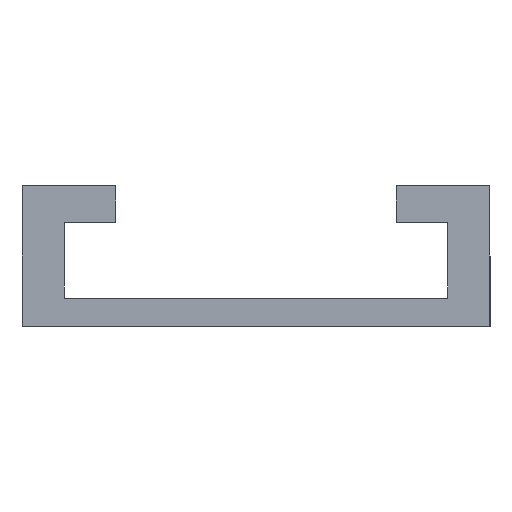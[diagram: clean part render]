
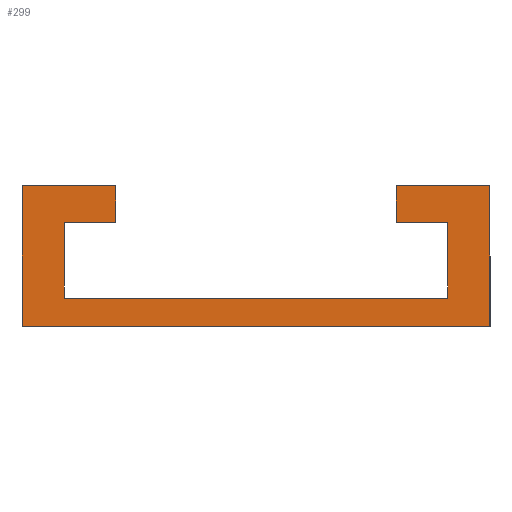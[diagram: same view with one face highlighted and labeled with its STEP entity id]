
A CAD part, left-side view. The second image highlights one B-rep face of the part: STEP entity #299.
In plain terms, the highlighted planar face has unit normal (-1, 0, 0).
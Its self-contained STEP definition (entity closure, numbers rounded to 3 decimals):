
#6 = CARTESIAN_POINT ( 'NONE',  ( 0., 15., 11.1 ) ) ;
#7 = CARTESIAN_POINT ( 'NONE',  ( 0., -20.5, 3. ) ) ;
#9 = VERTEX_POINT ( 'NONE', #55 ) ;
#12 = VERTEX_POINT ( 'NONE', #305 ) ;
#19 = VERTEX_POINT ( 'NONE', #200 ) ;
#21 = LINE ( 'NONE', #27, #105 ) ;
#26 = VECTOR ( 'NONE', #427, 1000. ) ;
#27 = CARTESIAN_POINT ( 'NONE',  ( 0., -25., 0. ) ) ;
#30 = VERTEX_POINT ( 'NONE', #352 ) ;
#31 = CARTESIAN_POINT ( 'NONE',  ( 0., -20.5, 11.1 ) ) ;
#38 = CARTESIAN_POINT ( 'NONE',  ( 0., -25., 15. ) ) ;
#39 = DIRECTION ( 'NONE',  ( 0., 0., -1. ) ) ;
#48 = VERTEX_POINT ( 'NONE', #53 ) ;
#49 = ORIENTED_EDGE ( 'NONE', *, *, #89, .F. ) ;
#53 = CARTESIAN_POINT ( 'NONE',  ( 0., 25., 0. ) ) ;
#55 = CARTESIAN_POINT ( 'NONE',  ( 0., 15., 15. ) ) ;
#61 = LINE ( 'NONE', #135, #266 ) ;
#65 = EDGE_CURVE ( 'NONE', #389, #98, #385, .T. ) ;
#75 = EDGE_CURVE ( 'NONE', #361, #19, #342, .T. ) ;
#80 = VECTOR ( 'NONE', #242, 1000. ) ;
#84 = AXIS2_PLACEMENT_3D ( 'NONE', #140, #108, #39 ) ;
#85 = EDGE_LOOP ( 'NONE', ( #287, #237, #285, #198, #423, #126, #378, #49, #373, #173, #130, #278 ) ) ;
#89 = EDGE_CURVE ( 'NONE', #405, #389, #176, .T. ) ;
#98 = VERTEX_POINT ( 'NONE', #31 ) ;
#105 = VECTOR ( 'NONE', #315, 1000. ) ;
#107 = LINE ( 'NONE', #390, #188 ) ;
#108 = DIRECTION ( 'NONE',  ( 1., 0., 0. ) ) ;
#112 = DIRECTION ( 'NONE',  ( 0., -1., 0. ) ) ;
#126 = ORIENTED_EDGE ( 'NONE', *, *, #189, .F. ) ;
#129 = CARTESIAN_POINT ( 'NONE',  ( 0., -15., 11.1 ) ) ;
#130 = ORIENTED_EDGE ( 'NONE', *, *, #196, .F. ) ;
#131 = EDGE_CURVE ( 'NONE', #435, #366, #107, .T. ) ;
#134 = EDGE_CURVE ( 'NONE', #379, #48, #21, .T. ) ;
#135 = CARTESIAN_POINT ( 'NONE',  ( 0., 25., 0. ) ) ;
#140 = CARTESIAN_POINT ( 'NONE',  ( 0., 0., 0. ) ) ;
#150 = LINE ( 'NONE', #220, #282 ) ;
#170 = DIRECTION ( 'NONE',  ( 0., 0., 1. ) ) ;
#173 = ORIENTED_EDGE ( 'NONE', *, *, #131, .F. ) ;
#176 = LINE ( 'NONE', #424, #80 ) ;
#180 = DIRECTION ( 'NONE',  ( 0., 0., -1. ) ) ;
#181 = LINE ( 'NONE', #38, #252 ) ;
#183 = CARTESIAN_POINT ( 'NONE',  ( 0., 20.5, 11.1 ) ) ;
#186 = CARTESIAN_POINT ( 'NONE',  ( 0., 20.5, 3. ) ) ;
#188 = VECTOR ( 'NONE', #247, 1000. ) ;
#189 = EDGE_CURVE ( 'NONE', #98, #361, #217, .T. ) ;
#196 = EDGE_CURVE ( 'NONE', #9, #435, #309, .T. ) ;
#198 = ORIENTED_EDGE ( 'NONE', *, *, #221, .F. ) ;
#199 = VECTOR ( 'NONE', #323, 1000. ) ;
#200 = CARTESIAN_POINT ( 'NONE',  ( 0., -15., 15. ) ) ;
#212 = EDGE_CURVE ( 'NONE', #12, #379, #181, .T. ) ;
#213 = DIRECTION ( 'NONE',  ( 0., 0., -1. ) ) ;
#217 = LINE ( 'NONE', #318, #199 ) ;
#220 = CARTESIAN_POINT ( 'NONE',  ( 0., -15., 15. ) ) ;
#221 = EDGE_CURVE ( 'NONE', #19, #12, #150, .T. ) ;
#226 = EDGE_CURVE ( 'NONE', #30, #9, #265, .T. ) ;
#237 = ORIENTED_EDGE ( 'NONE', *, *, #134, .F. ) ;
#241 = VECTOR ( 'NONE', #213, 1000. ) ;
#242 = DIRECTION ( 'NONE',  ( 0., -1., 0. ) ) ;
#247 = DIRECTION ( 'NONE',  ( 0., 1., 0. ) ) ;
#252 = VECTOR ( 'NONE', #180, 1000. ) ;
#262 = CARTESIAN_POINT ( 'NONE',  ( 0., -25., 0. ) ) ;
#264 = EDGE_CURVE ( 'NONE', #48, #30, #61, .T. ) ;
#265 = LINE ( 'NONE', #397, #26 ) ;
#266 = VECTOR ( 'NONE', #369, 1000. ) ;
#278 = ORIENTED_EDGE ( 'NONE', *, *, #226, .F. ) ;
#282 = VECTOR ( 'NONE', #112, 1000. ) ;
#285 = ORIENTED_EDGE ( 'NONE', *, *, #212, .F. ) ;
#287 = ORIENTED_EDGE ( 'NONE', *, *, #264, .F. ) ;
#290 = EDGE_CURVE ( 'NONE', #366, #405, #440, .T. ) ;
#299 = ADVANCED_FACE ( 'NONE', ( #325 ), #329, .F. ) ;
#303 = VECTOR ( 'NONE', #356, 1000. ) ;
#305 = CARTESIAN_POINT ( 'NONE',  ( 0., -25., 15. ) ) ;
#309 = LINE ( 'NONE', #429, #386 ) ;
#315 = DIRECTION ( 'NONE',  ( 0., 1., 0. ) ) ;
#318 = CARTESIAN_POINT ( 'NONE',  ( 0., -20.5, 11.1 ) ) ;
#323 = DIRECTION ( 'NONE',  ( 0., 1., 0. ) ) ;
#325 = FACE_OUTER_BOUND ( 'NONE', #85, .T. ) ;
#329 = PLANE ( 'NONE',  #84 ) ;
#342 = LINE ( 'NONE', #129, #303 ) ;
#352 = CARTESIAN_POINT ( 'NONE',  ( 0., 25., 15. ) ) ;
#356 = DIRECTION ( 'NONE',  ( 0., 0., 1. ) ) ;
#361 = VERTEX_POINT ( 'NONE', #401 ) ;
#364 = CARTESIAN_POINT ( 'NONE',  ( 0., 20.5, 11.1 ) ) ;
#366 = VERTEX_POINT ( 'NONE', #183 ) ;
#369 = DIRECTION ( 'NONE',  ( 0., 0., 1. ) ) ;
#373 = ORIENTED_EDGE ( 'NONE', *, *, #290, .F. ) ;
#378 = ORIENTED_EDGE ( 'NONE', *, *, #65, .F. ) ;
#379 = VERTEX_POINT ( 'NONE', #262 ) ;
#385 = LINE ( 'NONE', #426, #458 ) ;
#386 = VECTOR ( 'NONE', #398, 1000. ) ;
#389 = VERTEX_POINT ( 'NONE', #7 ) ;
#390 = CARTESIAN_POINT ( 'NONE',  ( 0., 15., 11.1 ) ) ;
#397 = CARTESIAN_POINT ( 'NONE',  ( 0., 25., 15. ) ) ;
#398 = DIRECTION ( 'NONE',  ( 0., 0., -1. ) ) ;
#401 = CARTESIAN_POINT ( 'NONE',  ( 0., -15., 11.1 ) ) ;
#405 = VERTEX_POINT ( 'NONE', #186 ) ;
#423 = ORIENTED_EDGE ( 'NONE', *, *, #75, .F. ) ;
#424 = CARTESIAN_POINT ( 'NONE',  ( 0., 20.5, 3. ) ) ;
#426 = CARTESIAN_POINT ( 'NONE',  ( 0., -20.5, 3. ) ) ;
#427 = DIRECTION ( 'NONE',  ( 0., -1., 0. ) ) ;
#429 = CARTESIAN_POINT ( 'NONE',  ( 0., 15., 15. ) ) ;
#435 = VERTEX_POINT ( 'NONE', #6 ) ;
#440 = LINE ( 'NONE', #364, #241 ) ;
#458 = VECTOR ( 'NONE', #170, 1000. ) ;
